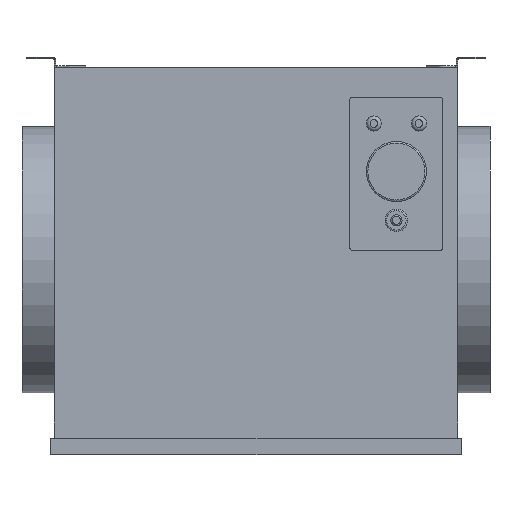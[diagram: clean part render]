
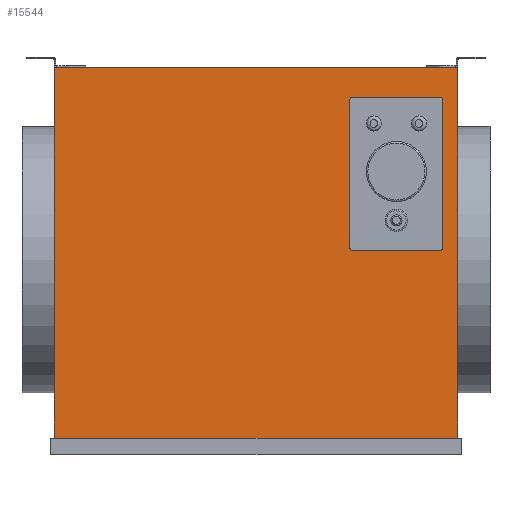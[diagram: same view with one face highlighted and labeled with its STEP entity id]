
A CAD part, left-side view. The second image highlights one B-rep face of the part: STEP entity #15544.
In plain terms, the highlighted planar face has unit normal (-1, 0, 0).
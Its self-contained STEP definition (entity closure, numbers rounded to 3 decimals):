
#167=CIRCLE('',#16127,4.);
#169=CIRCLE('',#16131,4.);
#171=CIRCLE('',#16135,4.);
#173=CIRCLE('',#16138,4.);
#316=FACE_BOUND('',#2397,.T.);
#1524=FACE_OUTER_BOUND('',#2396,.T.);
#2396=EDGE_LOOP('',(#14087,#14088,#14089,#14090));
#2397=EDGE_LOOP('',(#14091,#14092,#14093,#14094,#14095,#14096,#14097,#14098));
#3706=LINE('',#32345,#5033);
#3713=LINE('',#32363,#5040);
#3717=LINE('',#32378,#5044);
#3719=LINE('',#32381,#5046);
#3722=LINE('',#32404,#5049);
#3723=LINE('',#32406,#5050);
#3724=LINE('',#32408,#5051);
#3725=LINE('',#32409,#5052);
#5033=VECTOR('',#18564,10.);
#5040=VECTOR('',#18579,10.);
#5044=VECTOR('',#18597,10.);
#5046=VECTOR('',#18601,10.);
#5049=VECTOR('',#18628,10.);
#5050=VECTOR('',#18629,10.);
#5051=VECTOR('',#18630,10.);
#5052=VECTOR('',#18631,10.);
#7329=VERTEX_POINT('',#32338);
#7330=VERTEX_POINT('',#32340);
#7331=VERTEX_POINT('',#32344);
#7335=VERTEX_POINT('',#32353);
#7336=VERTEX_POINT('',#32355);
#7338=VERTEX_POINT('',#32361);
#7340=VERTEX_POINT('',#32367);
#7342=VERTEX_POINT('',#32373);
#7349=VERTEX_POINT('',#32402);
#7350=VERTEX_POINT('',#32403);
#7351=VERTEX_POINT('',#32405);
#7352=VERTEX_POINT('',#32407);
#9583=EDGE_CURVE('',#7330,#7329,#167,.T.);
#9585=EDGE_CURVE('',#7331,#7330,#3706,.T.);
#9590=EDGE_CURVE('',#7336,#7335,#169,.T.);
#9594=EDGE_CURVE('',#7335,#7338,#3713,.T.);
#9597=EDGE_CURVE('',#7338,#7340,#171,.T.);
#9599=EDGE_CURVE('',#7342,#7331,#173,.T.);
#9602=EDGE_CURVE('',#7329,#7336,#3717,.T.);
#9604=EDGE_CURVE('',#7340,#7342,#3719,.T.);
#9613=EDGE_CURVE('',#7349,#7350,#3722,.T.);
#9614=EDGE_CURVE('',#7349,#7351,#3723,.T.);
#9615=EDGE_CURVE('',#7352,#7351,#3724,.T.);
#9616=EDGE_CURVE('',#7350,#7352,#3725,.T.);
#14087=ORIENTED_EDGE('',*,*,#9613,.F.);
#14088=ORIENTED_EDGE('',*,*,#9614,.T.);
#14089=ORIENTED_EDGE('',*,*,#9615,.F.);
#14090=ORIENTED_EDGE('',*,*,#9616,.F.);
#14091=ORIENTED_EDGE('',*,*,#9590,.T.);
#14092=ORIENTED_EDGE('',*,*,#9594,.T.);
#14093=ORIENTED_EDGE('',*,*,#9597,.T.);
#14094=ORIENTED_EDGE('',*,*,#9604,.T.);
#14095=ORIENTED_EDGE('',*,*,#9599,.T.);
#14096=ORIENTED_EDGE('',*,*,#9585,.T.);
#14097=ORIENTED_EDGE('',*,*,#9583,.T.);
#14098=ORIENTED_EDGE('',*,*,#9602,.T.);
#14505=PLANE('',#16152);
#15544=ADVANCED_FACE('',(#1524,#316),#14505,.T.);
#16127=AXIS2_PLACEMENT_3D('',#32341,#18559,#18560);
#16131=AXIS2_PLACEMENT_3D('',#32356,#18572,#18573);
#16135=AXIS2_PLACEMENT_3D('',#32369,#18585,#18586);
#16138=AXIS2_PLACEMENT_3D('',#32374,#18591,#18592);
#16152=AXIS2_PLACEMENT_3D('',#32401,#18626,#18627);
#18559=DIRECTION('center_axis',(1.,0.,0.));
#18560=DIRECTION('ref_axis',(0.,-0.707,-0.707));
#18564=DIRECTION('',(0.,0.,-1.));
#18572=DIRECTION('center_axis',(1.,0.,0.));
#18573=DIRECTION('ref_axis',(0.,0.707,-0.707));
#18579=DIRECTION('',(0.,0.,1.));
#18585=DIRECTION('center_axis',(1.,0.,0.));
#18586=DIRECTION('ref_axis',(0.,0.707,0.707));
#18591=DIRECTION('center_axis',(1.,0.,0.));
#18592=DIRECTION('ref_axis',(0.,-0.707,0.707));
#18597=DIRECTION('',(0.,1.,0.));
#18601=DIRECTION('',(0.,-1.,0.));
#18626=DIRECTION('center_axis',(-1.,0.,0.));
#18627=DIRECTION('ref_axis',(0.,-1.,0.));
#18628=DIRECTION('',(0.,1.,0.));
#18629=DIRECTION('',(0.,0.,1.));
#18630=DIRECTION('',(0.,-1.,0.));
#18631=DIRECTION('',(0.,0.,1.));
#32338=CARTESIAN_POINT('',(-317.938,-238.65,14.));
#32340=CARTESIAN_POINT('',(-317.938,-242.65,18.));
#32341=CARTESIAN_POINT('Origin',(-317.938,-238.65,18.));
#32344=CARTESIAN_POINT('',(-317.938,-242.65,214.));
#32345=CARTESIAN_POINT('',(-317.938,-242.65,-9.));
#32353=CARTESIAN_POINT('',(-317.938,-118.65,18.));
#32355=CARTESIAN_POINT('',(-317.938,-122.65,14.));
#32356=CARTESIAN_POINT('Origin',(-317.938,-122.65,18.));
#32361=CARTESIAN_POINT('',(-317.938,-118.65,214.));
#32363=CARTESIAN_POINT('',(-317.938,-118.65,-111.));
#32367=CARTESIAN_POINT('',(-317.938,-122.65,218.));
#32369=CARTESIAN_POINT('Origin',(-317.938,-122.65,214.));
#32373=CARTESIAN_POINT('',(-317.938,-238.65,218.));
#32374=CARTESIAN_POINT('Origin',(-317.938,-238.65,214.));
#32378=CARTESIAN_POINT('',(-317.938,16.35,14.));
#32381=CARTESIAN_POINT('',(-317.938,78.35,218.));
#32401=CARTESIAN_POINT('Origin',(-317.938,275.35,-236.));
#32402=CARTESIAN_POINT('',(-317.938,-262.65,-236.));
#32403=CARTESIAN_POINT('',(-317.938,275.35,-236.));
#32404=CARTESIAN_POINT('',(-317.938,140.85,-236.));
#32405=CARTESIAN_POINT('',(-317.938,-262.65,258.));
#32406=CARTESIAN_POINT('',(-317.938,-262.65,-236.));
#32407=CARTESIAN_POINT('',(-317.938,275.35,258.));
#32408=CARTESIAN_POINT('',(-317.938,275.35,258.));
#32409=CARTESIAN_POINT('',(-317.938,275.35,-236.));
